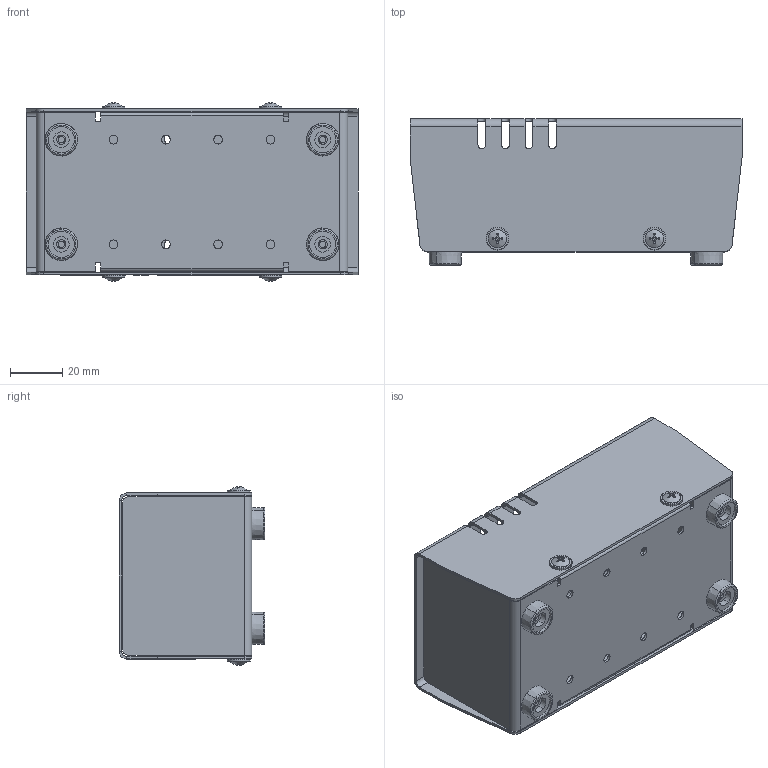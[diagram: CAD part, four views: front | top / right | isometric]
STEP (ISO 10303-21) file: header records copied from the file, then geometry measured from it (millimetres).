
FILE_DESCRIPTION (( 'STEP AP203' ), '1' );
FILE_NAME ('MP-050.STEP', '2024-01-30T07:34:04', ( '' ), ( '' ), 'SwSTEP 2.0', 'SolidWorks 2021', '' );
FILE_SCHEMA (( 'CONFIG_CONTROL_DESIGN' ));
Length unit declared in the file: millimetre
Products named in the file (5): M3_vida; A-82-0-0-G-0; 63.5x127x51_ust; MP-050; 63.5x127x51_taban
Assembly tree (10 placements, depth 2):
  MP-050
    63.5x127x51_taban
    63.5x127x51_ust
    A-82-0-0-G-0  x4
    M3_vida  x4
Bounding box: 127 x 55.8 x 68.17 mm (x, y, z)
Volume: 35633 mm3; surface area: 71475.5 mm2
Topology: 10 solids, 10 shells, 400 faces, 992 edges, 616 vertices
Faces by surface type: plane 196, cylinder 160, torus 24, cone 16, bspline 4
Entity records: 8964 total; most frequent: CARTESIAN_POINT 1564, DIRECTION 1464, ORIENTED_EDGE 1372, EDGE_CURVE 686, AXIS2_PLACEMENT_3D 523, VERTEX_POINT 418, LINE 418, VECTOR 418
